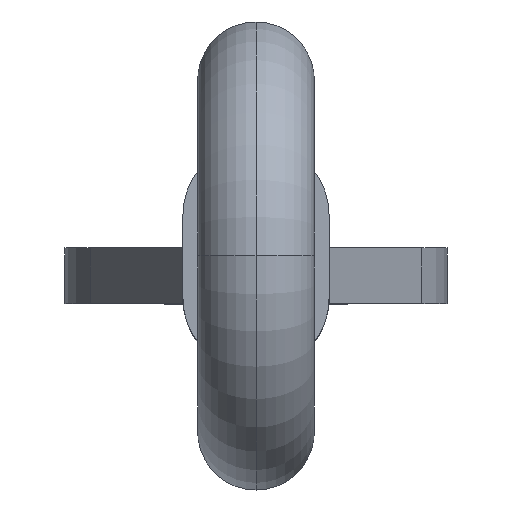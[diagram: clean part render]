
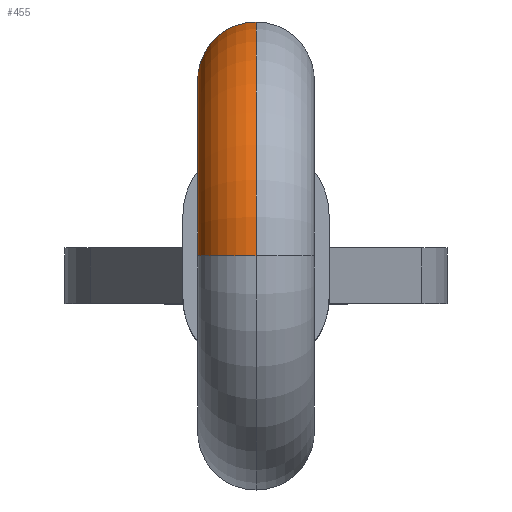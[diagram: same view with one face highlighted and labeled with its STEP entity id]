
A CAD part, top view. The second image highlights one B-rep face of the part: STEP entity #455.
In plain terms, the highlighted toroidal (fillet/blend) face has major radius 4.8 mm and minor radius 1.59 mm.
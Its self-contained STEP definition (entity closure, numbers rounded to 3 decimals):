
#9 = DIRECTION ( 'NONE',  ( -1., 0., 0. ) ) ;
#47 = CARTESIAN_POINT ( 'NONE',  ( 0., -1.133, 241.8 ) ) ;
#82 = FACE_OUTER_BOUND ( 'NONE', #677, .T. ) ;
#108 = VERTEX_POINT ( 'NONE', #686 ) ;
#158 = CIRCLE ( 'NONE', #557, 1.59 ) ;
#192 = EDGE_CURVE ( 'NONE', #706, #971, #952, .T. ) ;
#200 = CARTESIAN_POINT ( 'NONE',  ( 0., -1.133, 243.39 ) ) ;
#234 = AXIS2_PLACEMENT_3D ( 'NONE', #977, #760, #598 ) ;
#235 = AXIS2_PLACEMENT_3D ( 'NONE', #994, #780, #395 ) ;
#240 = EDGE_CURVE ( 'NONE', #706, #937, #587, .T. ) ;
#275 = DIRECTION ( 'NONE',  ( 0., -1., 0. ) ) ;
#300 = ORIENTED_EDGE ( 'NONE', *, *, #478, .F. ) ;
#341 = CIRCLE ( 'NONE', #235, 3.21 ) ;
#395 = DIRECTION ( 'NONE',  ( 0., 0., 1. ) ) ;
#410 = DIRECTION ( 'NONE',  ( 0., 0.667, 0.745 ) ) ;
#455 = ADVANCED_FACE ( 'NONE', ( #82 ), #781, .T. ) ;
#463 = ORIENTED_EDGE ( 'NONE', *, *, #192, .F. ) ;
#471 = DIRECTION ( 'NONE',  ( 0., 0., 1. ) ) ;
#478 = EDGE_CURVE ( 'NONE', #971, #108, #341, .T. ) ;
#557 = AXIS2_PLACEMENT_3D ( 'NONE', #642, #410, #565 ) ;
#565 = DIRECTION ( 'NONE',  ( 1., 0., 0. ) ) ;
#587 = CIRCLE ( 'NONE', #234, 6.39 ) ;
#598 = DIRECTION ( 'NONE',  ( 0., 0., 1. ) ) ;
#642 = CARTESIAN_POINT ( 'NONE',  ( 0., 2.445, 233.8 ) ) ;
#652 = EDGE_CURVE ( 'NONE', #937, #108, #158, .T. ) ;
#677 = EDGE_LOOP ( 'NONE', ( #463, #900, #688, #300 ) ) ;
#686 = CARTESIAN_POINT ( 'NONE',  ( 0., 1.259, 234.86 ) ) ;
#688 = ORIENTED_EDGE ( 'NONE', *, *, #652, .T. ) ;
#692 = CARTESIAN_POINT ( 'NONE',  ( 0., -1.133, 237. ) ) ;
#705 = CARTESIAN_POINT ( 'NONE',  ( 0., 3.63, 232.74 ) ) ;
#706 = VERTEX_POINT ( 'NONE', #200 ) ;
#760 = DIRECTION ( 'NONE',  ( -1., 0., 0. ) ) ;
#780 = DIRECTION ( 'NONE',  ( -1., 0., 0. ) ) ;
#781 = TOROIDAL_SURFACE ( 'NONE', #876, 4.8, 1.59 ) ;
#874 = AXIS2_PLACEMENT_3D ( 'NONE', #47, #275, #892 ) ;
#876 = AXIS2_PLACEMENT_3D ( 'NONE', #692, #9, #471 ) ;
#892 = DIRECTION ( 'NONE',  ( 0., 0., -1. ) ) ;
#900 = ORIENTED_EDGE ( 'NONE', *, *, #240, .T. ) ;
#937 = VERTEX_POINT ( 'NONE', #705 ) ;
#946 = CARTESIAN_POINT ( 'NONE',  ( 0., -1.133, 240.21 ) ) ;
#952 = CIRCLE ( 'NONE', #874, 1.59 ) ;
#971 = VERTEX_POINT ( 'NONE', #946 ) ;
#977 = CARTESIAN_POINT ( 'NONE',  ( 0., -1.133, 237. ) ) ;
#994 = CARTESIAN_POINT ( 'NONE',  ( 0., -1.133, 237. ) ) ;
